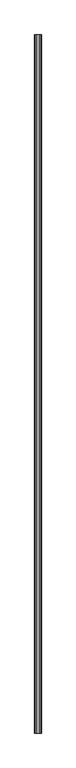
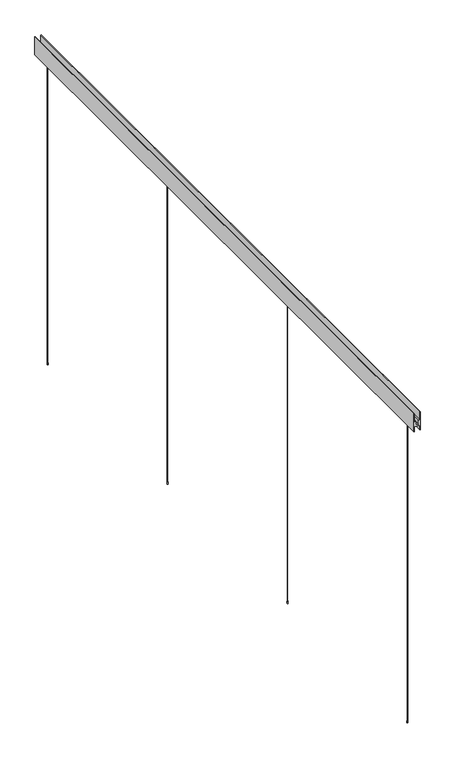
"""IFC4 building model written with IfcOpenShell, lengths in millimetres: light fixture geometry, Zumtobel SUPERSYSTEM II Track H : 3PH/L3+DALI Track 3000 WH + Track Profile."""

from ifc_helpers import new_model, si_unit, frame, origin, place, context, project, spatial, polyline, circle_curve, outline, extrude, source, transform, mapped, element, save
from ifc_brep_helpers import plane_surface, cylinder_surface, advanced_brep


def light_fixture_33ea9d1e(model_context):
    return source(origin(), model_context, "Body", "SolidModel", [
        advanced_brep(
        [(-241.8, -883.3333333, 13.0), (-236.6, -883.3333333, 13.0), (-240.2, -883.3333333, 13.0), (-238.2, -883.3333333, 13.0), (-241.8, -883.3333333, 0.0), (-236.6, -883.3333333, 0.0), (-237.2, -883.3333333, 1970.0), (-241.2, -883.3333333, 1970.0), (-238.2, -883.3333333, 1955.0), (-240.2, -883.3333333, 1955.0), (-237.2, -883.3333333, 1955.0), (-241.2, -883.3333333, 1955.0)],
        [
            (0, 1, circle_curve(frame((-239.2, -883.3333333, 13.0), z_axis=(0.0, 0.0, 1.0), x_axis=(1.0, 0.0, 0.0)), 2.6)),
            (1, 0, circle_curve(frame((-239.2, -883.3333333, 13.0), z_axis=(0.0, 0.0, 1.0), x_axis=(1.0, 0.0, 0.0)), 2.6)),
            (2, 3, circle_curve(frame((-239.2, -883.3333333, 13.0), z_axis=(0.0, 0.0, -1.0), x_axis=(1.0, 0.0, 0.0)), 1.0)),
            (3, 2, circle_curve(frame((-239.2, -883.3333333, 13.0), z_axis=(0.0, 0.0, -1.0), x_axis=(1.0, 0.0, 0.0)), 1.0)),
            (4, 5, circle_curve(frame((-239.2, -883.3333333, 0.0), z_axis=(0.0, 0.0, -1.0), x_axis=(1.0, 0.0, 0.0)), 2.6)),
            (5, 4, circle_curve(frame((-239.2, -883.3333333, 0.0), z_axis=(0.0, 0.0, -1.0), x_axis=(1.0, 0.0, 0.0)), 2.6)),
            (0, 4),
            (5, 1),
            (6, 7, circle_curve(frame((-239.2, -883.3333333, 1970.0), z_axis=(0.0, 0.0, 1.0), x_axis=(-1.0, 0.0, 0.0)), 2.0)),
            (7, 6, circle_curve(frame((-239.2, -883.3333333, 1970.0), z_axis=(0.0, 0.0, 1.0), x_axis=(-1.0, 0.0, 0.0)), 2.0)),
            (3, 8),
            (8, 9, circle_curve(frame((-239.2, -883.3333333, 1955.0), z_axis=(0.0, 0.0, -1.0), x_axis=(1.0, 0.0, 0.0)), 1.0)),
            (9, 2),
            (9, 8, circle_curve(frame((-239.2, -883.3333333, 1955.0), z_axis=(0.0, 0.0, -1.0), x_axis=(1.0, 0.0, 0.0)), 1.0)),
            (10, 11, circle_curve(frame((-239.2, -883.3333333, 1955.0), z_axis=(0.0, 0.0, -1.0), x_axis=(-1.0, 0.0, 0.0)), 2.0)),
            (11, 10, circle_curve(frame((-239.2, -883.3333333, 1955.0), z_axis=(0.0, 0.0, -1.0), x_axis=(-1.0, 0.0, 0.0)), 2.0)),
            (11, 7),
            (6, 10),
        ],
        [
            plane_surface(frame((-236.6, -883.3333333, 13.0), z_axis=(0.0, 0.0, 1.0), x_axis=(0.0, -1.0, 0.0))),
            plane_surface(frame((-236.6, -883.3333333, 0.0), z_axis=(0.0, 0.0, -1.0), x_axis=(0.0, 1.0, 0.0))),
            cylinder_surface(frame((-239.2, -883.3333333, 13.0), z_axis=(0.0, 0.0, -1.0), x_axis=(1.0, 0.0, 0.0)), 2.6),
            plane_surface(frame((-238.2, -883.3333333, 1970.0), z_axis=(0.0, 0.0, 1.0), x_axis=(0.0, -1.0, 0.0))),
            cylinder_surface(frame((-239.2, -883.3333333, 1970.0), z_axis=(0.0, 0.0, -1.0), x_axis=(1.0, 0.0, 0.0)), 1.0),
            plane_surface(frame((-241.2, -883.3333333, 1955.0), z_axis=(0.0, 0.0, -1.0), x_axis=(0.0, -1.0, 0.0))),
            cylinder_surface(frame((-239.2, -883.3333333, 1970.0), z_axis=(0.0, 0.0, -1.0), x_axis=(-1.0, 0.0, 0.0)), 2.0),
        ],
        [
            (0, [[1, 2], [3, 4]]),
            (1, [[5, 6]]),
            (2, [[7, -6, 8, -1]]),
            (2, [[-8, -5, -7, -2]]),
            (3, [[9, 10]]),
            (4, [[11, 12, 13, -4]]),
            (4, [[-13, 14, -11, -3]]),
            (5, [[15, 16], [-14, -12]]),
            (6, [[17, -9, 18, -16]]),
            (6, [[-18, -10, -17, -15]]),
        ],
    ),
        advanced_brep(
        [(-241.8, 383.3333333, 13.0), (-236.6, 383.3333333, 13.0), (-240.2, 383.3333333, 13.0), (-238.2, 383.3333333, 13.0), (-241.8, 383.3333333, 0.0), (-236.6, 383.3333333, 0.0), (-237.2, 383.3333333, 1970.0), (-241.2, 383.3333333, 1970.0), (-238.2, 383.3333333, 1955.0), (-240.2, 383.3333333, 1955.0), (-237.2, 383.3333333, 1955.0), (-241.2, 383.3333333, 1955.0)],
        [
            (0, 1, circle_curve(frame((-239.2, 383.3333333, 13.0), z_axis=(0.0, 0.0, 1.0), x_axis=(1.0, 0.0, 0.0)), 2.6)),
            (1, 0, circle_curve(frame((-239.2, 383.3333333, 13.0), z_axis=(0.0, 0.0, 1.0), x_axis=(1.0, 0.0, 0.0)), 2.6)),
            (2, 3, circle_curve(frame((-239.2, 383.3333333, 13.0), z_axis=(0.0, 0.0, -1.0), x_axis=(1.0, 0.0, 0.0)), 1.0)),
            (3, 2, circle_curve(frame((-239.2, 383.3333333, 13.0), z_axis=(0.0, 0.0, -1.0), x_axis=(1.0, 0.0, 0.0)), 1.0)),
            (4, 5, circle_curve(frame((-239.2, 383.3333333, 0.0), z_axis=(0.0, 0.0, -1.0), x_axis=(1.0, 0.0, 0.0)), 2.6)),
            (5, 4, circle_curve(frame((-239.2, 383.3333333, 0.0), z_axis=(0.0, 0.0, -1.0), x_axis=(1.0, 0.0, 0.0)), 2.6)),
            (0, 4),
            (5, 1),
            (6, 7, circle_curve(frame((-239.2, 383.3333333, 1970.0), z_axis=(0.0, 0.0, 1.0), x_axis=(-1.0, 0.0, 0.0)), 2.0)),
            (7, 6, circle_curve(frame((-239.2, 383.3333333, 1970.0), z_axis=(0.0, 0.0, 1.0), x_axis=(-1.0, 0.0, 0.0)), 2.0)),
            (3, 8),
            (8, 9, circle_curve(frame((-239.2, 383.3333333, 1955.0), z_axis=(0.0, 0.0, -1.0), x_axis=(1.0, 0.0, 0.0)), 1.0)),
            (9, 2),
            (9, 8, circle_curve(frame((-239.2, 383.3333333, 1955.0), z_axis=(0.0, 0.0, -1.0), x_axis=(1.0, 0.0, 0.0)), 1.0)),
            (10, 11, circle_curve(frame((-239.2, 383.3333333, 1955.0), z_axis=(0.0, 0.0, -1.0), x_axis=(-1.0, 0.0, 0.0)), 2.0)),
            (11, 10, circle_curve(frame((-239.2, 383.3333333, 1955.0), z_axis=(0.0, 0.0, -1.0), x_axis=(-1.0, 0.0, 0.0)), 2.0)),
            (11, 7),
            (6, 10),
        ],
        [
            plane_surface(frame((-236.6, 383.3333333, 13.0), z_axis=(0.0, 0.0, 1.0), x_axis=(0.0, -1.0, 0.0))),
            plane_surface(frame((-236.6, 383.3333333, 0.0), z_axis=(0.0, 0.0, -1.0), x_axis=(0.0, 1.0, 0.0))),
            cylinder_surface(frame((-239.2, 383.3333333, 13.0), z_axis=(0.0, 0.0, -1.0), x_axis=(1.0, 0.0, 0.0)), 2.6),
            plane_surface(frame((-238.2, 383.3333333, 1970.0), z_axis=(0.0, 0.0, 1.0), x_axis=(0.0, -1.0, 0.0))),
            cylinder_surface(frame((-239.2, 383.3333333, 1970.0), z_axis=(0.0, 0.0, -1.0), x_axis=(1.0, 0.0, 0.0)), 1.0),
            plane_surface(frame((-241.2, 383.3333333, 1955.0), z_axis=(0.0, 0.0, -1.0), x_axis=(0.0, -1.0, 0.0))),
            cylinder_surface(frame((-239.2, 383.3333333, 1970.0), z_axis=(0.0, 0.0, -1.0), x_axis=(-1.0, 0.0, 0.0)), 2.0),
        ],
        [
            (0, [[1, 2], [3, 4]]),
            (1, [[5, 6]]),
            (2, [[7, -6, 8, -1]]),
            (2, [[-8, -5, -7, -2]]),
            (3, [[9, 10]]),
            (4, [[11, 12, 13, -4]]),
            (4, [[-13, 14, -11, -3]]),
            (5, [[15, 16], [-14, -12]]),
            (6, [[17, -9, 18, -16]]),
            (6, [[-18, -10, -17, -15]]),
        ],
    ),
        advanced_brep(
        [(-241.8, -2150.0, 13.0), (-236.6, -2150.0, 13.0), (-240.2, -2150.0, 13.0), (-238.2, -2150.0, 13.0), (-241.8, -2150.0, 0.0), (-236.6, -2150.0, 0.0), (-237.2, -2150.0, 1970.0), (-241.2, -2150.0, 1970.0), (-238.2, -2150.0, 1955.0), (-240.2, -2150.0, 1955.0), (-237.2, -2150.0, 1955.0), (-241.2, -2150.0, 1955.0)],
        [
            (0, 1, circle_curve(frame((-239.2, -2150.0, 13.0), z_axis=(0.0, 0.0, 1.0), x_axis=(1.0, 0.0, 0.0)), 2.6)),
            (1, 0, circle_curve(frame((-239.2, -2150.0, 13.0), z_axis=(0.0, 0.0, 1.0), x_axis=(1.0, 0.0, 0.0)), 2.6)),
            (2, 3, circle_curve(frame((-239.2, -2150.0, 13.0), z_axis=(0.0, 0.0, -1.0), x_axis=(1.0, 0.0, 0.0)), 1.0)),
            (3, 2, circle_curve(frame((-239.2, -2150.0, 13.0), z_axis=(0.0, 0.0, -1.0), x_axis=(1.0, 0.0, 0.0)), 1.0)),
            (4, 5, circle_curve(frame((-239.2, -2150.0, 0.0), z_axis=(0.0, 0.0, -1.0), x_axis=(1.0, 0.0, 0.0)), 2.6)),
            (5, 4, circle_curve(frame((-239.2, -2150.0, 0.0), z_axis=(0.0, 0.0, -1.0), x_axis=(1.0, 0.0, 0.0)), 2.6)),
            (0, 4),
            (5, 1),
            (6, 7, circle_curve(frame((-239.2, -2150.0, 1970.0), z_axis=(0.0, 0.0, 1.0), x_axis=(-1.0, 0.0, 0.0)), 2.0)),
            (7, 6, circle_curve(frame((-239.2, -2150.0, 1970.0), z_axis=(0.0, 0.0, 1.0), x_axis=(-1.0, 0.0, 0.0)), 2.0)),
            (3, 8),
            (8, 9, circle_curve(frame((-239.2, -2150.0, 1955.0), z_axis=(0.0, 0.0, -1.0), x_axis=(1.0, 0.0, 0.0)), 1.0)),
            (9, 2),
            (9, 8, circle_curve(frame((-239.2, -2150.0, 1955.0), z_axis=(0.0, 0.0, -1.0), x_axis=(1.0, 0.0, 0.0)), 1.0)),
            (10, 11, circle_curve(frame((-239.2, -2150.0, 1955.0), z_axis=(0.0, 0.0, -1.0), x_axis=(-1.0, 0.0, 0.0)), 2.0)),
            (11, 10, circle_curve(frame((-239.2, -2150.0, 1955.0), z_axis=(0.0, 0.0, -1.0), x_axis=(-1.0, 0.0, 0.0)), 2.0)),
            (11, 7),
            (6, 10),
        ],
        [
            plane_surface(frame((-236.6, -2150.0, 13.0), z_axis=(0.0, 0.0, 1.0), x_axis=(0.0, -1.0, 0.0))),
            plane_surface(frame((-236.6, -2150.0, 0.0), z_axis=(0.0, 0.0, -1.0), x_axis=(0.0, 1.0, 0.0))),
            cylinder_surface(frame((-239.2, -2150.0, 13.0), z_axis=(0.0, 0.0, -1.0), x_axis=(1.0, 0.0, 0.0)), 2.6),
            plane_surface(frame((-238.2, -2150.0, 1970.0), z_axis=(0.0, 0.0, 1.0), x_axis=(0.0, -1.0, 0.0))),
            cylinder_surface(frame((-239.2, -2150.0, 1970.0), z_axis=(0.0, 0.0, -1.0), x_axis=(1.0, 0.0, 0.0)), 1.0),
            plane_surface(frame((-241.2, -2150.0, 1955.0), z_axis=(0.0, 0.0, -1.0), x_axis=(0.0, -1.0, 0.0))),
            cylinder_surface(frame((-239.2, -2150.0, 1970.0), z_axis=(0.0, 0.0, -1.0), x_axis=(-1.0, 0.0, 0.0)), 2.0),
        ],
        [
            (0, [[1, 2], [3, 4]]),
            (1, [[5, 6]]),
            (2, [[7, -6, 8, -1]]),
            (2, [[-8, -5, -7, -2]]),
            (3, [[9, 10]]),
            (4, [[11, 12, 13, -4]]),
            (4, [[-13, 14, -11, -3]]),
            (5, [[15, 16], [-14, -12]]),
            (6, [[17, -9, 18, -16]]),
            (6, [[-18, -10, -17, -15]]),
        ],
    ),
        advanced_brep(
        [(-241.8, 1650.0, 13.0), (-236.6, 1650.0, 13.0), (-240.2, 1650.0, 13.0), (-238.2, 1650.0, 13.0), (-241.8, 1650.0, 0.0), (-236.6, 1650.0, 0.0), (-237.2, 1650.0, 1970.0), (-241.2, 1650.0, 1970.0), (-238.2, 1650.0, 1955.0), (-240.2, 1650.0, 1955.0), (-237.2, 1650.0, 1955.0), (-241.2, 1650.0, 1955.0)],
        [
            (0, 1, circle_curve(frame((-239.2, 1650.0, 13.0), z_axis=(0.0, 0.0, 1.0), x_axis=(1.0, 0.0, 0.0)), 2.6)),
            (1, 0, circle_curve(frame((-239.2, 1650.0, 13.0), z_axis=(0.0, 0.0, 1.0), x_axis=(1.0, 0.0, 0.0)), 2.6)),
            (2, 3, circle_curve(frame((-239.2, 1650.0, 13.0), z_axis=(0.0, 0.0, -1.0), x_axis=(1.0, 0.0, 0.0)), 1.0)),
            (3, 2, circle_curve(frame((-239.2, 1650.0, 13.0), z_axis=(0.0, 0.0, -1.0), x_axis=(1.0, 0.0, 0.0)), 1.0)),
            (4, 5, circle_curve(frame((-239.2, 1650.0, 0.0), z_axis=(0.0, 0.0, -1.0), x_axis=(1.0, 0.0, 0.0)), 2.6)),
            (5, 4, circle_curve(frame((-239.2, 1650.0, 0.0), z_axis=(0.0, 0.0, -1.0), x_axis=(1.0, 0.0, 0.0)), 2.6)),
            (0, 4),
            (5, 1),
            (6, 7, circle_curve(frame((-239.2, 1650.0, 1970.0), z_axis=(0.0, 0.0, 1.0), x_axis=(-1.0, 0.0, 0.0)), 2.0)),
            (7, 6, circle_curve(frame((-239.2, 1650.0, 1970.0), z_axis=(0.0, 0.0, 1.0), x_axis=(-1.0, 0.0, 0.0)), 2.0)),
            (3, 8),
            (8, 9, circle_curve(frame((-239.2, 1650.0, 1955.0), z_axis=(0.0, 0.0, -1.0), x_axis=(1.0, 0.0, 0.0)), 1.0)),
            (9, 2),
            (9, 8, circle_curve(frame((-239.2, 1650.0, 1955.0), z_axis=(0.0, 0.0, -1.0), x_axis=(1.0, 0.0, 0.0)), 1.0)),
            (10, 11, circle_curve(frame((-239.2, 1650.0, 1955.0), z_axis=(0.0, 0.0, -1.0), x_axis=(-1.0, 0.0, 0.0)), 2.0)),
            (11, 10, circle_curve(frame((-239.2, 1650.0, 1955.0), z_axis=(0.0, 0.0, -1.0), x_axis=(-1.0, 0.0, 0.0)), 2.0)),
            (11, 7),
            (6, 10),
        ],
        [
            plane_surface(frame((-236.6, 1650.0, 13.0), z_axis=(0.0, 0.0, 1.0), x_axis=(0.0, -1.0, 0.0))),
            plane_surface(frame((-236.6, 1650.0, 0.0), z_axis=(0.0, 0.0, -1.0), x_axis=(0.0, 1.0, 0.0))),
            cylinder_surface(frame((-239.2, 1650.0, 13.0), z_axis=(0.0, 0.0, -1.0), x_axis=(1.0, 0.0, 0.0)), 2.6),
            plane_surface(frame((-238.2, 1650.0, 1970.0), z_axis=(0.0, 0.0, 1.0), x_axis=(0.0, -1.0, 0.0))),
            cylinder_surface(frame((-239.2, 1650.0, 1970.0), z_axis=(0.0, 0.0, -1.0), x_axis=(1.0, 0.0, 0.0)), 1.0),
            plane_surface(frame((-241.2, 1650.0, 1955.0), z_axis=(0.0, 0.0, -1.0), x_axis=(0.0, -1.0, 0.0))),
            cylinder_surface(frame((-239.2, 1650.0, 1970.0), z_axis=(0.0, 0.0, -1.0), x_axis=(-1.0, 0.0, 0.0)), 2.0),
        ],
        [
            (0, [[1, 2], [3, 4]]),
            (1, [[5, 6]]),
            (2, [[7, -6, 8, -1]]),
            (2, [[-8, -5, -7, -2]]),
            (3, [[9, 10]]),
            (4, [[11, 12, 13, -4]]),
            (4, [[-13, 14, -11, -3]]),
            (5, [[15, 16], [-14, -12]]),
            (6, [[17, -9, 18, -16]]),
            (6, [[-18, -10, -17, -15]]),
        ],
    ),
        extrude(outline(polyline([(1970.0, -256.2), (1970.0, -222.2), (1940.0, -222.2), (1940.0, -220.2), (2054.0, -220.2), (2054.0, -222.2), (2004.0, -222.2), (2004.0, -231.2), (1979.0, -231.2), (1979.0, -247.2), (2004.0, -247.2), (2004.0, -256.2), (2054.0, -256.2), (2054.0, -258.2), (1940.0, -258.2), (1940.0, -256.2), (1970.0, -256.2)])), frame((0.0, -2250.0, 0.0), z_axis=(0.0, 1.0, 0.0), x_axis=(0.0, 0.0, 1.0)), (0.0, 0.0, 1.0), 4000.0),
    ])


if __name__ == "__main__":
    model = new_model("IFC4")
    model_context = context("Model", 3, world=origin())
    ifc_project = project(units=[si_unit("LENGTHUNIT", "METRE", prefix="MILLI")], contexts=[model_context])
    site = spatial("IfcSite", under=ifc_project)
    building = spatial("IfcBuilding", under=site)
    placement = place(None, origin())
    light_fixture_shape = light_fixture_33ea9d1e(model_context)
    element("IfcLightFixture", 1, ObjectType="Zumtobel SUPERSYSTEM II Track H : 3PH/L3+DALI Track 3000 WH + Track Profile", at=placement, inside=building, context=model_context, shape_type="MappedRepresentation", body=[
        mapped(light_fixture_shape, transform((0.0, 0.0, 0.0), x_axis=(1.0, 0.0, 0.0), y_axis=(0.0, 1.0, 0.0), z_axis=(0.0, 0.0, 1.0))),
    ])
    save(model, "model.ifc")
